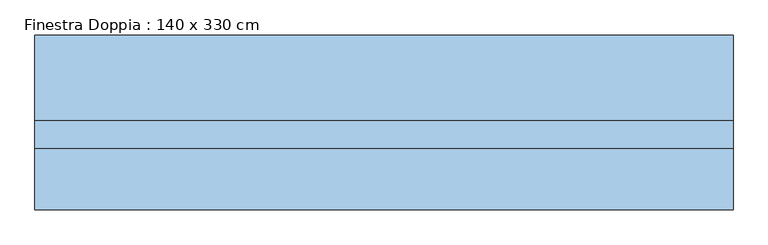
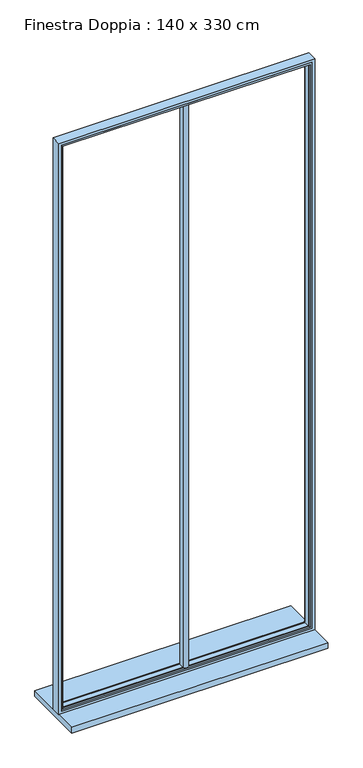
"""IFC4 building model written with IfcOpenShell, lengths in millimetres: window geometry, Finestra Doppia : 140 x 330 cm."""

from ifc_helpers import new_model, si_unit, point, frame, frame_2d, origin, place, context, project, spatial, polyline, circle_curve, ellipse_curve, trimmed, segment, composite_curve, outline, extrude, faceted_brep, source, transform, mapped, element, save
from ifc_brep_helpers import plane_surface, cylinder_surface, advanced_brep


def finestra_doppia_140_x_330_cm_8a0baf34(model_context):
    return source(origin(), model_context, "Body", "SolidModel", [
        extrude(outline(composite_curve([segment(polyline([(-15.0, -10.0), (-15.0, 20.0)]), True, "CONTINUOUS"), segment(trimmed(circle_curve(frame_2d((0.0, 7.0384974)), 19.8242415), [point((-15.0, 20.0))], [point((15.0, 20.0))], False, "CARTESIAN"), True, "CONTINUOUS"), segment(polyline([(15.0, 20.0), (15.0, -10.0)]), True, "CONTINUOUS"), segment(trimmed(circle_curve(frame_2d((0.0, 5.6850663)), 21.7030253), [point((15.0, -10.0))], [point((-15.0, -10.0))], False, "CARTESIAN"), True, "CONTINUOUS")], self_intersect=False)), frame((0.0, 0.0, 900.0), z_axis=(0.0, 0.0, 1.0), x_axis=(1.0, 0.0, 0.0)), (0.0, 0.0, 1.0), 3275.0349779),
        faceted_brep([(-685.0, -20.0, 4185.0349779), (-685.0, 20.0, 4185.0349779), (-685.0, 20.0, 915.0), (-685.0, -20.0, 915.0), (685.0, 20.0, 4185.0349779), (685.0, 20.0, 915.0), (-670.0, 20.0, 4170.0349779), (-670.0, 20.0, 930.0), (670.0, 20.0, 930.0), (670.0, 20.0, 4170.0349779), (685.0, -20.0, 915.0), (685.0, -20.0, 4185.0349779), (675.0, -20.0, 4175.0349779), (675.0, -20.0, 925.0), (-675.0, -20.0, 925.0), (-675.0, -20.0, 4175.0349779), (-675.0, -10.0, 4175.0349779), (-675.0, -10.0, 925.0), (675.0, -10.0, 925.0), (675.0, -10.0, 4175.0349779), (670.0, -10.0, 4170.0349779), (670.0, -10.0, 930.0), (-670.0, -10.0, 930.0), (-670.0, -10.0, 4170.0349779)], [[[0, 1, 2, 3]], [[4, 5, 2, 1], [6, 7, 8, 9]], [[3, 2, 5, 10]], [[0, 3, 10, 11], [12, 13, 14, 15]], [[16, 15, 14, 17]], [[17, 14, 13, 18]], [[16, 17, 18, 19], [20, 21, 22, 23]], [[6, 23, 22, 7]], [[7, 22, 21, 8]], [[10, 5, 4, 11]], [[18, 13, 12, 19]], [[8, 21, 20, 9]], [[11, 4, 1, 0]], [[19, 12, 15, 16]], [[9, 20, 23, 6]]]),
        advanced_brep(
        [(-700.0, 35.0, 4200.0), (-700.0, 35.0, 900.0), (-700.0, -20.0, 900.0), (-700.0, -20.0, 4200.0), (700.0, 35.0, 4200.0), (700.0, 35.0, 900.0), (-680.0, 35.0, 920.0), (680.0, 35.0, 920.0), (680.0, 35.0, 4180.0), (-680.0, 35.0, 4180.0), (700.0, -20.0, 900.0), (700.0, -20.0, 4200.0), (-685.0, -20.0, 4185.0), (685.0, -20.0, 4185.0), (685.0, -20.0, 915.0), (-685.0, -20.0, 915.0), (-685.0, 20.0, 4185.0), (-685.0, 20.0, 915.0), (685.0, 20.0, 915.0), (685.0, 20.0, 4185.0), (-675.0, 20.0, 4175.0), (675.0, 20.0, 4175.0), (675.0, 20.0, 925.0), (-675.0, 20.0, 925.0), (-675.0, 30.0, 4175.0), (-675.0, 30.0, 925.0), (675.0, 30.0, 925.0), (675.0, 30.0, 4175.0)],
        [
            (0, 1),
            (1, 2),
            (2, 3),
            (3, 0),
            (0, 4),
            (4, 5),
            (5, 1),
            (6, 7),
            (7, 8),
            (8, 9),
            (9, 6),
            (5, 10),
            (10, 2),
            (10, 11),
            (11, 3),
            (12, 13),
            (13, 14),
            (14, 15),
            (15, 12),
            (16, 12),
            (15, 17),
            (17, 16),
            (14, 18),
            (18, 17),
            (18, 19),
            (19, 16),
            (20, 21),
            (21, 22),
            (22, 23),
            (23, 20),
            (24, 20),
            (23, 25),
            (25, 24),
            (22, 26),
            (26, 25),
            (9, 24, ellipse_curve(frame((-680.0, 30.0, 4180.0), z_axis=(-0.7071067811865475, 0.0, -0.7071067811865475), x_axis=(-0.7071067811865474, 0.0, 0.7071067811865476)), 7.0710678, 5.0)),
            (25, 6, ellipse_curve(frame((-680.0, 30.0, 920.0), z_axis=(-0.7071067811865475, 0.0, 0.7071067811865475), x_axis=(0.7071067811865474, 0.0, 0.7071067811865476)), 7.0710678, 5.0)),
            (26, 7, ellipse_curve(frame((680.0, 30.0, 920.0), z_axis=(-0.7071067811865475, 0.0, -0.7071067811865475), x_axis=(-0.7071067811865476, 0.0, 0.7071067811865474)), 7.0710678, 5.0)),
            (4, 11),
            (13, 19),
            (21, 27),
            (27, 26),
            (27, 8, ellipse_curve(frame((680.0, 30.0, 4180.0), z_axis=(0.7071067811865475, 0.0, -0.7071067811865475), x_axis=(-0.7071067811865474, 0.0, -0.7071067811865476)), 7.0710678, 5.0)),
            (24, 27),
        ],
        [
            plane_surface(frame((-700.0, 0.0, 4200.0), z_axis=(-1.0, 0.0, 0.0), x_axis=(0.0, 0.0, -1.0))),
            plane_surface(frame((680.0, 35.0, 4180.0), z_axis=(0.0, 1.0, 0.0), x_axis=(-1.0, 0.0, 0.0))),
            plane_surface(frame((-700.0, 0.0, 900.0), z_axis=(0.0, 0.0, -1.0), x_axis=(1.0, 0.0, 0.0))),
            plane_surface(frame((700.0, -20.0, 4200.0), z_axis=(0.0, -1.0, 0.0), x_axis=(-1.0, 0.0, 0.0))),
            plane_surface(frame((-685.0, -20.0, 4185.0), z_axis=(1.0, 0.0, 0.0), x_axis=(0.0, 0.0, -1.0))),
            plane_surface(frame((-685.0, -20.0, 915.0), z_axis=(0.0, 0.0, 1.0), x_axis=(1.0, 0.0, 0.0))),
            plane_surface(frame((685.0, 20.0, 4185.0), z_axis=(0.0, -1.0, 0.0), x_axis=(-1.0, 0.0, 0.0))),
            plane_surface(frame((-675.0, 20.0, 4175.0), z_axis=(1.0, 0.0, 0.0), x_axis=(0.0, 0.0, -1.0))),
            plane_surface(frame((-675.0, 20.0, 925.0), z_axis=(0.0, 0.0, 1.0), x_axis=(1.0, 0.0, 0.0))),
            cylinder_surface(frame((-680.0, 30.0, 4200.0), z_axis=(0.0, 0.0, 1.0), x_axis=(1.0, 0.0, 0.0)), 5.0),
            cylinder_surface(frame((-700.0, 30.0, 920.0), z_axis=(-1.0, 0.0, 0.0), x_axis=(0.0, 0.0, 1.0)), 5.0),
            plane_surface(frame((700.0, 0.0, 900.0), z_axis=(1.0, 0.0, 0.0), x_axis=(0.0, 0.0, 1.0))),
            plane_surface(frame((685.0, -20.0, 915.0), z_axis=(-1.0, 0.0, 0.0), x_axis=(0.0, 0.0, 1.0))),
            plane_surface(frame((675.0, 20.0, 925.0), z_axis=(-1.0, 0.0, 0.0), x_axis=(0.0, 0.0, 1.0))),
            cylinder_surface(frame((680.0, 30.0, 900.0), z_axis=(0.0, 0.0, -1.0), x_axis=(-1.0, 0.0, 0.0)), 5.0),
            plane_surface(frame((700.0, 0.0, 4200.0), z_axis=(0.0, 0.0, 1.0), x_axis=(-1.0, 0.0, 0.0))),
            plane_surface(frame((685.0, -20.0, 4185.0), z_axis=(0.0, 0.0, -1.0), x_axis=(-1.0, 0.0, 0.0))),
            plane_surface(frame((675.0, 20.0, 4175.0), z_axis=(0.0, 0.0, -1.0), x_axis=(-1.0, 0.0, 0.0))),
            cylinder_surface(frame((700.0, 30.0, 4180.0), z_axis=(1.0, 0.0, 0.0), x_axis=(0.0, 0.0, -1.0)), 5.0),
        ],
        [
            (0, [[1, 2, 3, 4]]),
            (1, [[5, 6, 7, -1], [8, 9, 10, 11]]),
            (2, [[-2, -7, 12, 13]]),
            (3, [[-13, 14, 15, -3], [16, 17, 18, 19]]),
            (4, [[20, -19, 21, 22]]),
            (5, [[-21, -18, 23, 24]]),
            (6, [[-24, 25, 26, -22], [27, 28, 29, 30]]),
            (7, [[31, -30, 32, 33]]),
            (8, [[-32, -29, 34, 35]]),
            (9, [[36, -33, 37, -11]]),
            (10, [[-37, -35, 38, -8]]),
            (11, [[-12, -6, 39, -14]]),
            (12, [[-23, -17, 40, -25]]),
            (13, [[-34, -28, 41, 42]]),
            (14, [[-38, -42, 43, -9]]),
            (15, [[-39, -5, -4, -15]]),
            (16, [[-40, -16, -20, -26]]),
            (17, [[-41, -27, -31, 44]]),
            (18, [[-43, -44, -36, -10]]),
        ],
    ),
        extrude(outline(polyline([(700.0, -143.1372612), (-700.0, -143.1372612), (-700.0, 206.8627388), (700.0, 206.8627388), (700.0, -143.1372612)])), frame((0.0, 0.0, 870.0), z_axis=(0.0, 0.0, 1.0), x_axis=(1.0, 0.0, 0.0)), (0.0, 0.0, 1.0), 33.0),
    ])


if __name__ == "__main__":
    model = new_model("IFC4")
    model_context = context("Model", 3, world=origin())
    ifc_project = project(units=[si_unit("LENGTHUNIT", "METRE", prefix="MILLI")], contexts=[model_context])
    site = spatial("IfcSite", under=ifc_project)
    building = spatial("IfcBuilding", under=site)
    placement = place(None, origin())
    finestra_doppia_140_x_330_cm_shape = finestra_doppia_140_x_330_cm_8a0baf34(model_context)
    element("IfcWindow", 1, ObjectType="Finestra Doppia : 140 x 330 cm", at=placement, inside=building, context=model_context, shape_type="MappedRepresentation", body=[
        mapped(finestra_doppia_140_x_330_cm_shape, transform((0.0, 0.0, 0.0), x_axis=(1.0, 0.0, 0.0), y_axis=(0.0, 1.0, 0.0), z_axis=(0.0, 0.0, 1.0))),
    ])
    save(model, "model.ifc")
